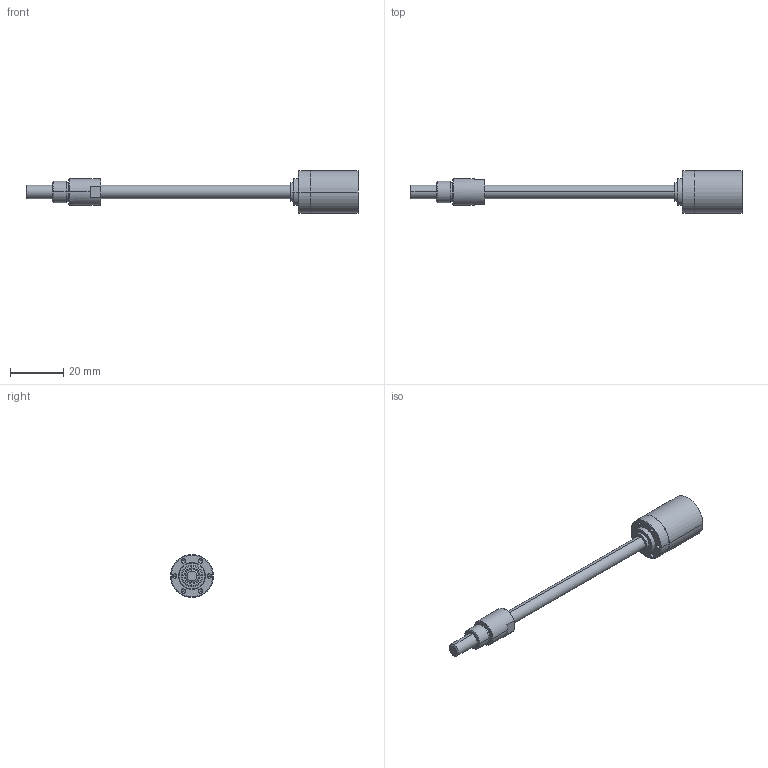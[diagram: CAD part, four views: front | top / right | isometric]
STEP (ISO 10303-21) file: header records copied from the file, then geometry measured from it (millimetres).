
FILE_DESCRIPTION((''),'2;1');
FILE_NAME('424222_GP16S_KG-1ST','2016-10-05T',('mmagpetk'),(''),'CREO PARAMETRIC BY PTC INC, 2016050','CREO PARAMETRIC BY PTC INC, 2016050','');
FILE_SCHEMA(('CONFIG_CONTROL_DESIGN'));
Length unit declared in the file: millimetre
Products named in the file (1): 424222_GP16S_KG-1ST
Bounding box: 124.3 x 16 x 16 mm (x, y, z)
Volume: 7121.5 mm3; surface area: 4096.5 mm2
Topology: 1 solids, 1 shells, 106 faces, 234 edges, 140 vertices
Faces by surface type: cylinder 46, cone 36, plane 22, torus 2
Entity records: 4918 total; most frequent: CARTESIAN_POINT 582, DIRECTION 552, ORIENTED_EDGE 444, PRESENTATION_STYLE_ASSIGNMENT 321, AXIS2_PLACEMENT_3D 232, STYLED_ITEM 223, CURVE_STYLE 222, EDGE_CURVE 222
